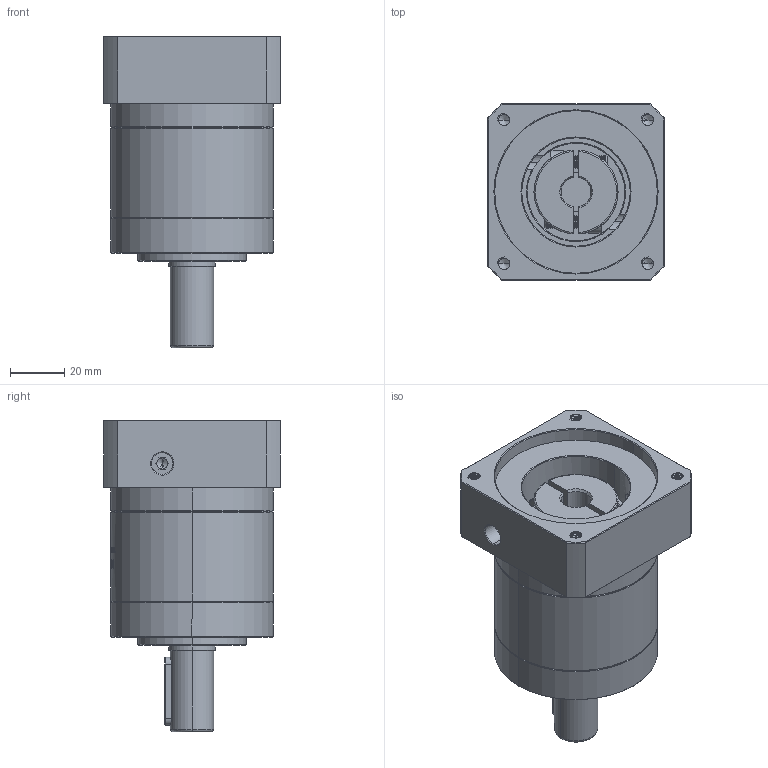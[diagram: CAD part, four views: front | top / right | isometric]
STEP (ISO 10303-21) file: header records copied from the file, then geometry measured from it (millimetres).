
FILE_DESCRIPTION (( 'STEP AP214' ), '1' );
FILE_NAME ('ZE60-D16-L1-11-60-75-M5.STEP', '2022-04-17T15:24:36', ( '' ), ( 'Microsoft' ), 'SwSTEP 2.0', 'SolidWorks 2016', '' );
FILE_SCHEMA (( 'AUTOMOTIVE_DESIGN' ));
Length unit declared in the file: millimetre
Products named in the file (1): ZE60-D16-L1-11-60-75-M5
Bounding box: 65 x 65 x 115 mm (x, y, z)
Volume: 227552.5 mm3; surface area: 45668.5 mm2
Topology: 6 solids, 6 shells, 1743 faces, 4738 edges, 3068 vertices
Faces by surface type: plane 737, cylinder 455, bspline 311, cone 222, torus 18
Entity records: 105401 total; most frequent: CARTESIAN_POINT 46766, ORIENTED_EDGE 9432, DIRECTION 6727, EDGE_CURVE 4716, VERTEX_POINT 3068, LINE 2363, VECTOR 2363, AXIS2_PLACEMENT_3D 2182
